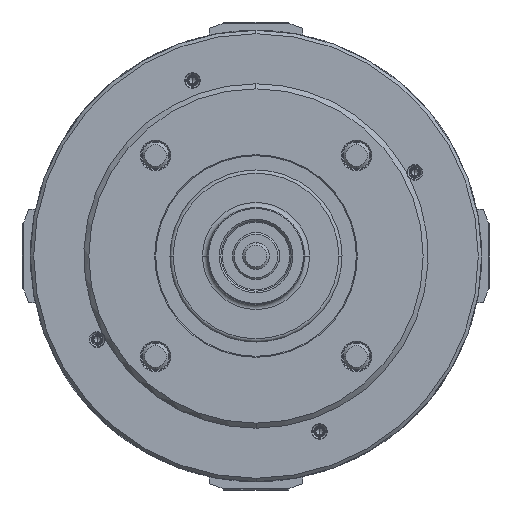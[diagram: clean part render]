
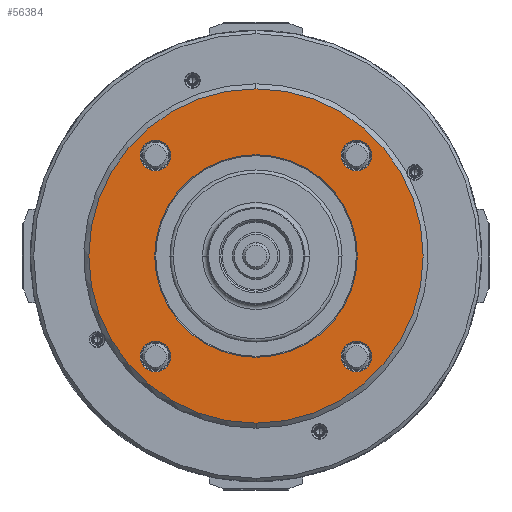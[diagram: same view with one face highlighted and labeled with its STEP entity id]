
A CAD part, left-side view. The second image highlights one B-rep face of the part: STEP entity #56384.
In plain terms, the highlighted planar face has unit normal (-1, 0, 0).
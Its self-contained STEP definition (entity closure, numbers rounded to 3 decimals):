
#787 = EDGE_LOOP ( 'NONE', ( #108045, #63474 ) ) ;
#1474 = CARTESIAN_POINT ( 'NONE',  ( -110., 0., 0. ) ) ;
#1535 = CARTESIAN_POINT ( 'NONE',  ( -110., 0., -100. ) ) ;
#3764 = CARTESIAN_POINT ( 'NONE',  ( -110., -60.104, -60.104 ) ) ;
#3985 = EDGE_CURVE ( 'NONE', #24521, #29444, #47547, .T. ) ;
#4416 = AXIS2_PLACEMENT_3D ( 'NONE', #45320, #80771, #47597 ) ;
#5876 = VERTEX_POINT ( 'NONE', #100365 ) ;
#8070 = FACE_BOUND ( 'NONE', #787, .T. ) ;
#8767 = CARTESIAN_POINT ( 'NONE',  ( -110., 60.104, 60.104 ) ) ;
#8785 = CIRCLE ( 'NONE', #70168, 9.1 ) ;
#8957 = DIRECTION ( 'NONE',  ( 0., 0., -1. ) ) ;
#11242 = CARTESIAN_POINT ( 'NONE',  ( -110., 60.104, -51.004 ) ) ;
#11572 = AXIS2_PLACEMENT_3D ( 'NONE', #60781, #61353, #61921 ) ;
#12762 = DIRECTION ( 'NONE',  ( 1., 0., 0. ) ) ;
#13130 = ORIENTED_EDGE ( 'NONE', *, *, #40571, .T. ) ;
#13519 = EDGE_LOOP ( 'NONE', ( #47364, #37944 ) ) ;
#16189 = DIRECTION ( 'NONE',  ( 0., 0., -1. ) ) ;
#16220 = EDGE_LOOP ( 'NONE', ( #22686, #23124 ) ) ;
#16844 = CARTESIAN_POINT ( 'NONE',  ( -110., 0., 0. ) ) ;
#17078 = VERTEX_POINT ( 'NONE', #110238 ) ;
#17657 = DIRECTION ( 'NONE',  ( 1., 0., 0. ) ) ;
#18509 = FACE_BOUND ( 'NONE', #78047, .T. ) ;
#19279 = ORIENTED_EDGE ( 'NONE', *, *, #106801, .T. ) ;
#21236 = EDGE_CURVE ( 'NONE', #52491, #89358, #21655, .T. ) ;
#21497 = DIRECTION ( 'NONE',  ( 0., 0., -1. ) ) ;
#21655 = CIRCLE ( 'NONE', #56969, 100. ) ;
#22686 = ORIENTED_EDGE ( 'NONE', *, *, #37917, .T. ) ;
#23124 = ORIENTED_EDGE ( 'NONE', *, *, #71640, .T. ) ;
#23178 = VERTEX_POINT ( 'NONE', #75299 ) ;
#23361 = AXIS2_PLACEMENT_3D ( 'NONE', #8767, #12762, #21497 ) ;
#24521 = VERTEX_POINT ( 'NONE', #61869 ) ;
#24564 = CIRCLE ( 'NONE', #11572, 9.1 ) ;
#24917 = CIRCLE ( 'NONE', #114074, 60.6 ) ;
#26881 = CIRCLE ( 'NONE', #36104, 9.1 ) ;
#28587 = CIRCLE ( 'NONE', #93580, 9.1 ) ;
#28713 = DIRECTION ( 'NONE',  ( 0., 0., -1. ) ) ;
#29444 = VERTEX_POINT ( 'NONE', #74495 ) ;
#29715 = DIRECTION ( 'NONE',  ( 0., 0., -1. ) ) ;
#31160 = CARTESIAN_POINT ( 'NONE',  ( -110., 0., 0. ) ) ;
#32142 = EDGE_CURVE ( 'NONE', #89358, #52491, #38635, .T. ) ;
#32398 = EDGE_CURVE ( 'NONE', #46838, #44167, #112910, .T. ) ;
#33113 = VERTEX_POINT ( 'NONE', #11242 ) ;
#35395 = VERTEX_POINT ( 'NONE', #78275 ) ;
#36104 = AXIS2_PLACEMENT_3D ( 'NONE', #52589, #88067, #42166 ) ;
#36977 = DIRECTION ( 'NONE',  ( 1., 0., 0. ) ) ;
#37917 = EDGE_CURVE ( 'NONE', #5876, #108414, #39493, .T. ) ;
#37944 = ORIENTED_EDGE ( 'NONE', *, *, #21236, .F. ) ;
#38635 = CIRCLE ( 'NONE', #81276, 100. ) ;
#39287 = DIRECTION ( 'NONE',  ( 1., 0., 0. ) ) ;
#39493 = CIRCLE ( 'NONE', #56135, 9.1 ) ;
#40571 = EDGE_CURVE ( 'NONE', #44167, #46838, #24917, .T. ) ;
#42166 = DIRECTION ( 'NONE',  ( 0., 0., -1. ) ) ;
#42985 = CARTESIAN_POINT ( 'NONE',  ( -110., 0., 100. ) ) ;
#44162 = FACE_BOUND ( 'NONE', #52943, .T. ) ;
#44167 = VERTEX_POINT ( 'NONE', #52799 ) ;
#45320 = CARTESIAN_POINT ( 'NONE',  ( -110., -100., 0. ) ) ;
#45652 = CIRCLE ( 'NONE', #62569, 9.1 ) ;
#45813 = AXIS2_PLACEMENT_3D ( 'NONE', #84373, #64594, #29715 ) ;
#46838 = VERTEX_POINT ( 'NONE', #102640 ) ;
#47023 = DIRECTION ( 'NONE',  ( 1., 0., 0. ) ) ;
#47364 = ORIENTED_EDGE ( 'NONE', *, *, #32142, .F. ) ;
#47521 = EDGE_CURVE ( 'NONE', #33113, #23178, #68048, .T. ) ;
#47547 = CIRCLE ( 'NONE', #23361, 9.1 ) ;
#47597 = DIRECTION ( 'NONE',  ( 0., 0., -1. ) ) ;
#50344 = EDGE_LOOP ( 'NONE', ( #13130, #108304 ) ) ;
#52477 = CARTESIAN_POINT ( 'NONE',  ( -110., -60.104, -69.204 ) ) ;
#52491 = VERTEX_POINT ( 'NONE', #42985 ) ;
#52589 = CARTESIAN_POINT ( 'NONE',  ( -110., -60.104, 60.104 ) ) ;
#52799 = CARTESIAN_POINT ( 'NONE',  ( -110., 0., 60.6 ) ) ;
#52871 = DIRECTION ( 'NONE',  ( 1., 0., 0. ) ) ;
#52943 = EDGE_LOOP ( 'NONE', ( #56998, #114305 ) ) ;
#54024 = PLANE ( 'NONE',  #4416 ) ;
#54333 = DIRECTION ( 'NONE',  ( 1., 0., 0. ) ) ;
#55550 = DIRECTION ( 'NONE',  ( 0., 0., -1. ) ) ;
#56135 = AXIS2_PLACEMENT_3D ( 'NONE', #3764, #39287, #74728 ) ;
#56384 = ADVANCED_FACE ( 'NONE', ( #8070, #114500, #18509, #44162, #79619, #106918 ), #54024, .F. ) ;
#56436 = EDGE_CURVE ( 'NONE', #23178, #33113, #28587, .T. ) ;
#56969 = AXIS2_PLACEMENT_3D ( 'NONE', #1474, #36977, #55550 ) ;
#56998 = ORIENTED_EDGE ( 'NONE', *, *, #101868, .T. ) ;
#57209 = AXIS2_PLACEMENT_3D ( 'NONE', #97366, #17657, #8957 ) ;
#60781 = CARTESIAN_POINT ( 'NONE',  ( -110., 60.104, 60.104 ) ) ;
#61353 = DIRECTION ( 'NONE',  ( 1., 0., 0. ) ) ;
#61869 = CARTESIAN_POINT ( 'NONE',  ( -110., 60.104, 51.004 ) ) ;
#61921 = DIRECTION ( 'NONE',  ( 0., 0., -1. ) ) ;
#62569 = AXIS2_PLACEMENT_3D ( 'NONE', #95895, #52871, #16189 ) ;
#63474 = ORIENTED_EDGE ( 'NONE', *, *, #56436, .T. ) ;
#64318 = DIRECTION ( 'NONE',  ( 0., 0., -1. ) ) ;
#64594 = DIRECTION ( 'NONE',  ( 1., 0., 0. ) ) ;
#65579 = CARTESIAN_POINT ( 'NONE',  ( -110., 60.104, -60.104 ) ) ;
#68048 = CIRCLE ( 'NONE', #45813, 9.1 ) ;
#70168 = AXIS2_PLACEMENT_3D ( 'NONE', #98521, #54333, #28713 ) ;
#71640 = EDGE_CURVE ( 'NONE', #108414, #5876, #45652, .T. ) ;
#74164 = ORIENTED_EDGE ( 'NONE', *, *, #89761, .T. ) ;
#74495 = CARTESIAN_POINT ( 'NONE',  ( -110., 60.104, 69.204 ) ) ;
#74728 = DIRECTION ( 'NONE',  ( 0., 0., -1. ) ) ;
#75299 = CARTESIAN_POINT ( 'NONE',  ( -110., 60.104, -69.204 ) ) ;
#78047 = EDGE_LOOP ( 'NONE', ( #19279, #74164 ) ) ;
#78275 = CARTESIAN_POINT ( 'NONE',  ( -110., -60.104, 69.204 ) ) ;
#78548 = DIRECTION ( 'NONE',  ( 1., 0., 0. ) ) ;
#79619 = FACE_OUTER_BOUND ( 'NONE', #13519, .T. ) ;
#80771 = DIRECTION ( 'NONE',  ( 1., 0., 0. ) ) ;
#81276 = AXIS2_PLACEMENT_3D ( 'NONE', #31160, #102092, #64318 ) ;
#84373 = CARTESIAN_POINT ( 'NONE',  ( -110., 60.104, -60.104 ) ) ;
#88067 = DIRECTION ( 'NONE',  ( 1., 0., 0. ) ) ;
#89358 = VERTEX_POINT ( 'NONE', #1535 ) ;
#89761 = EDGE_CURVE ( 'NONE', #17078, #35395, #8785, .T. ) ;
#93580 = AXIS2_PLACEMENT_3D ( 'NONE', #65579, #47023, #99929 ) ;
#95895 = CARTESIAN_POINT ( 'NONE',  ( -110., -60.104, -60.104 ) ) ;
#97366 = CARTESIAN_POINT ( 'NONE',  ( -110., 0., 0. ) ) ;
#98521 = CARTESIAN_POINT ( 'NONE',  ( -110., -60.104, 60.104 ) ) ;
#99929 = DIRECTION ( 'NONE',  ( 0., 0., -1. ) ) ;
#100365 = CARTESIAN_POINT ( 'NONE',  ( -110., -60.104, -51.004 ) ) ;
#101868 = EDGE_CURVE ( 'NONE', #29444, #24521, #24564, .T. ) ;
#102092 = DIRECTION ( 'NONE',  ( 1., 0., 0. ) ) ;
#102640 = CARTESIAN_POINT ( 'NONE',  ( -110., 0., -60.6 ) ) ;
#106801 = EDGE_CURVE ( 'NONE', #35395, #17078, #26881, .T. ) ;
#106918 = FACE_BOUND ( 'NONE', #50344, .T. ) ;
#108045 = ORIENTED_EDGE ( 'NONE', *, *, #47521, .T. ) ;
#108304 = ORIENTED_EDGE ( 'NONE', *, *, #32398, .T. ) ;
#108414 = VERTEX_POINT ( 'NONE', #52477 ) ;
#110238 = CARTESIAN_POINT ( 'NONE',  ( -110., -60.104, 51.004 ) ) ;
#112910 = CIRCLE ( 'NONE', #57209, 60.6 ) ;
#113454 = DIRECTION ( 'NONE',  ( 0., 0., -1. ) ) ;
#114074 = AXIS2_PLACEMENT_3D ( 'NONE', #16844, #78548, #113454 ) ;
#114305 = ORIENTED_EDGE ( 'NONE', *, *, #3985, .T. ) ;
#114500 = FACE_BOUND ( 'NONE', #16220, .T. ) ;
